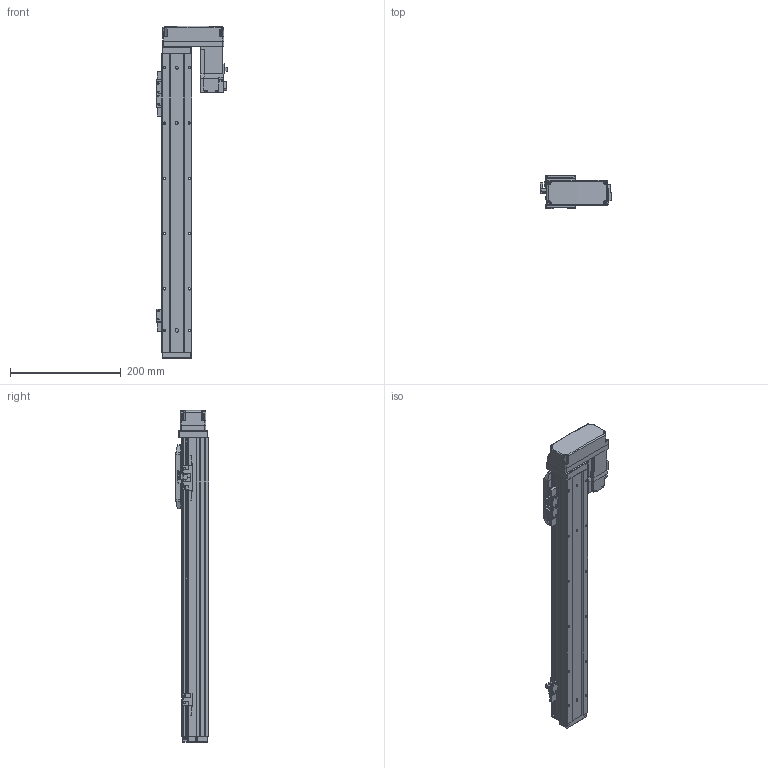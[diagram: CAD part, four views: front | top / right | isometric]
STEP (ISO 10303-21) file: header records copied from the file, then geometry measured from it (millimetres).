
FILE_DESCRIPTION (( 'STEP AP214' ), '1' );
FILE_NAME ('N_GRH5-400-BL-M10.step', '2025-03-14T09:45:31', ( '' ), ( '' ), 'SwSTEP 2.0', 'SolidWorks 2016', '' );
FILE_SCHEMA (( 'AUTOMOTIVE_DESIGN' ));
Length unit declared in the file: millimetre
Products named in the file (5): N_GRH5-GY-004^N_GRH5-400-BL-M10; N_GRH5-400-BL-M10; N_GRH5-BL-008^N_GRH5-400-BL-M10; HF-KP13_100W_Motor^N_GRH5-400-BL-M10; N_GRH5-GY-011^N_GRH5-400-BL-M10
Assembly tree (4 placements, depth 2):
  N_GRH5-400-BL-M10
    N_GRH5-GY-011^N_GRH5-400-BL-M10
    N_GRH5-GY-004^N_GRH5-400-BL-M10
    HF-KP13_100W_Motor^N_GRH5-400-BL-M10
    N_GRH5-BL-008^N_GRH5-400-BL-M10
Bounding box: 128.85 x 60 x 600.5 mm (x, y, z)
Volume: 1245957.4 mm3; surface area: 306960.2 mm2
Topology: 4 solids, 5 shells, 914 faces, 2352 edges, 1497 vertices
Faces by surface type: plane 553, cylinder 306, cone 30, bspline 15, sphere 10
Entity records: 34917 total; most frequent: CARTESIAN_POINT 5601, DIRECTION 4713, ORIENTED_EDGE 4656, EDGE_CURVE 2328, LINE 1623, VECTOR 1623, AXIS2_PLACEMENT_3D 1545, VERTEX_POINT 1495
